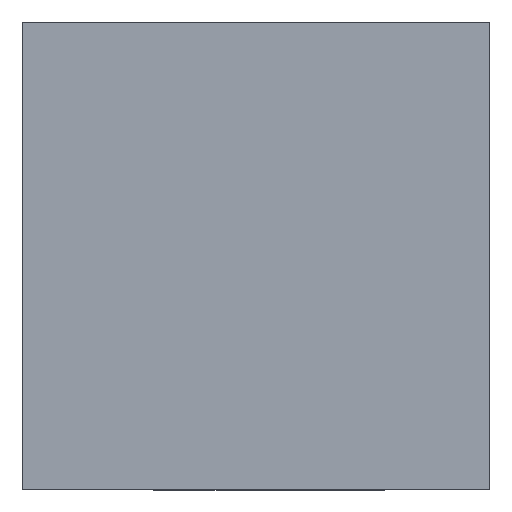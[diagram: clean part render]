
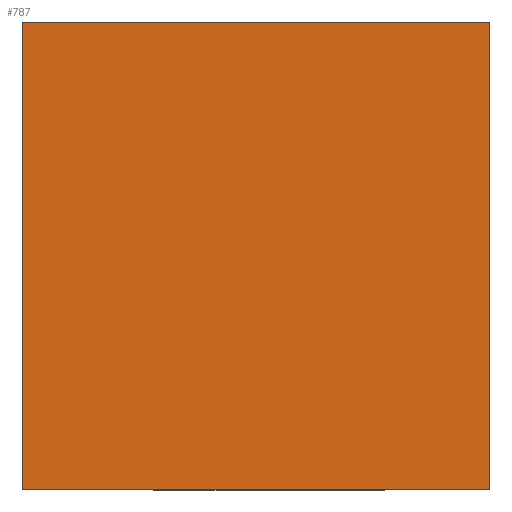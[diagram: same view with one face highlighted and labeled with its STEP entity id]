
A CAD part, top view. The second image highlights one B-rep face of the part: STEP entity #787.
In plain terms, the highlighted planar face has unit normal (0, 0, 1).
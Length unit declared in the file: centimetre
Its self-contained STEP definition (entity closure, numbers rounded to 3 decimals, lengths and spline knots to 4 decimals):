
#61 = CARTESIAN_POINT ( 'NONE',  ( 0., 1000., 1000. ) ) ;
#86 = VERTEX_POINT ( 'NONE', #116 ) ;
#116 = CARTESIAN_POINT ( 'NONE',  ( 1000., 0., 1000. ) ) ;
#134 = EDGE_LOOP ( 'NONE', ( #501, #675, #931, #879 ) ) ;
#137 = VERTEX_POINT ( 'NONE', #61 ) ;
#152 = CARTESIAN_POINT ( 'NONE',  ( 0., 1000., 1000. ) ) ;
#226 = DIRECTION ( 'NONE',  ( -1., 0., 0. ) ) ;
#235 = DIRECTION ( 'NONE',  ( 0., -1., 0. ) ) ;
#245 = VECTOR ( 'NONE', #525, 100. ) ;
#255 = EDGE_CURVE ( 'NONE', #552, #137, #886, .T. ) ;
#256 = FACE_OUTER_BOUND ( 'NONE', #134, .T. ) ;
#266 = VECTOR ( 'NONE', #613, 100. ) ;
#279 = LINE ( 'NONE', #601, #245 ) ;
#397 = CARTESIAN_POINT ( 'NONE',  ( 0., 1000., 1000. ) ) ;
#405 = PLANE ( 'NONE',  #406 ) ;
#406 = AXIS2_PLACEMENT_3D ( 'NONE', #1072, #417, #990 ) ;
#417 = DIRECTION ( 'NONE',  ( 0., 0., 1. ) ) ;
#493 = VECTOR ( 'NONE', #235, 100. ) ;
#501 = ORIENTED_EDGE ( 'NONE', *, *, #730, .T. ) ;
#515 = EDGE_CURVE ( 'NONE', #86, #552, #520, .T. ) ;
#520 = LINE ( 'NONE', #1018, #266 ) ;
#525 = DIRECTION ( 'NONE',  ( 1., 0., 0. ) ) ;
#538 = CARTESIAN_POINT ( 'NONE',  ( 1000., 1000., 1000. ) ) ;
#539 = EDGE_CURVE ( 'NONE', #869, #86, #279, .T. ) ;
#552 = VERTEX_POINT ( 'NONE', #538 ) ;
#601 = CARTESIAN_POINT ( 'NONE',  ( 0., 0., 1000. ) ) ;
#613 = DIRECTION ( 'NONE',  ( 0., 1., 0. ) ) ;
#675 = ORIENTED_EDGE ( 'NONE', *, *, #539, .T. ) ;
#683 = CARTESIAN_POINT ( 'NONE',  ( 0., 0., 1000. ) ) ;
#730 = EDGE_CURVE ( 'NONE', #137, #869, #741, .T. ) ;
#741 = LINE ( 'NONE', #152, #493 ) ;
#787 = ADVANCED_FACE ( 'NONE', ( #256 ), #405, .T. ) ;
#869 = VERTEX_POINT ( 'NONE', #683 ) ;
#879 = ORIENTED_EDGE ( 'NONE', *, *, #255, .T. ) ;
#886 = LINE ( 'NONE', #397, #1061 ) ;
#931 = ORIENTED_EDGE ( 'NONE', *, *, #515, .T. ) ;
#990 = DIRECTION ( 'NONE',  ( 1., 0., 0. ) ) ;
#1018 = CARTESIAN_POINT ( 'NONE',  ( 1000., 1000., 1000. ) ) ;
#1061 = VECTOR ( 'NONE', #226, 100. ) ;
#1072 = CARTESIAN_POINT ( 'NONE',  ( 0., 0., 1000. ) ) ;
